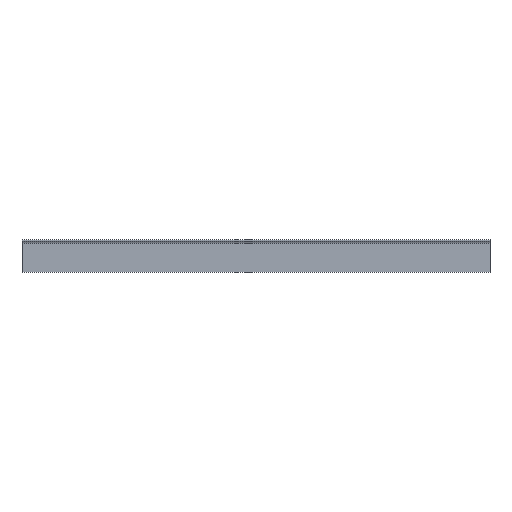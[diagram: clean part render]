
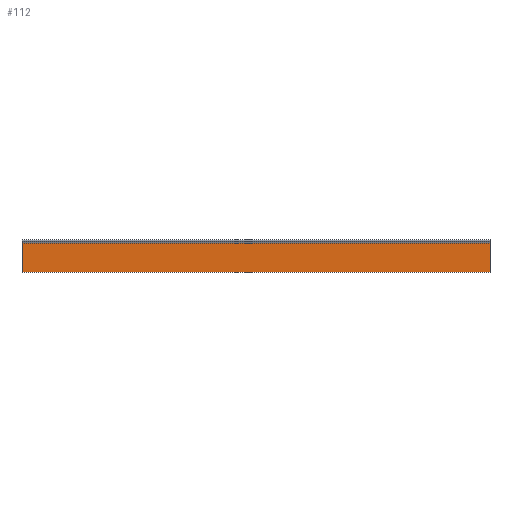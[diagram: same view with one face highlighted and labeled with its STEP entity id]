
A CAD part, front view. The second image highlights one B-rep face of the part: STEP entity #112.
In plain terms, the highlighted planar face has unit normal (0, -1, 0).
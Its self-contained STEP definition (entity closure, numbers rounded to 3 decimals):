
#7 = AXIS2_PLACEMENT_3D ( 'NONE', #86, #222, #391 ) ;
#14 = CARTESIAN_POINT ( 'NONE',  ( -265.5, 29., 0. ) ) ;
#17 = CARTESIAN_POINT ( 'NONE',  ( 265.5, 29., -37. ) ) ;
#22 = LINE ( 'NONE', #17, #154 ) ;
#28 = EDGE_CURVE ( 'NONE', #37, #78, #255, .T. ) ;
#30 = VECTOR ( 'NONE', #421, 1000. ) ;
#31 = EDGE_LOOP ( 'NONE', ( #201, #179, #119, #47 ) ) ;
#37 = VERTEX_POINT ( 'NONE', #127 ) ;
#47 = ORIENTED_EDGE ( 'NONE', *, *, #28, .T. ) ;
#55 = CARTESIAN_POINT ( 'NONE',  ( 265.5, 29., -4. ) ) ;
#78 = VERTEX_POINT ( 'NONE', #159 ) ;
#86 = CARTESIAN_POINT ( 'NONE',  ( 265.5, 29., 0. ) ) ;
#100 = DIRECTION ( 'NONE',  ( 0., 0., -1. ) ) ;
#112 = ADVANCED_FACE ( 'NONE', ( #267 ), #389, .F. ) ;
#119 = ORIENTED_EDGE ( 'NONE', *, *, #180, .F. ) ;
#127 = CARTESIAN_POINT ( 'NONE',  ( 265.5, 29., -4. ) ) ;
#154 = VECTOR ( 'NONE', #265, 1000. ) ;
#159 = CARTESIAN_POINT ( 'NONE',  ( -265.5, 29., -4. ) ) ;
#179 = ORIENTED_EDGE ( 'NONE', *, *, #371, .F. ) ;
#180 = EDGE_CURVE ( 'NONE', #37, #310, #362, .T. ) ;
#201 = ORIENTED_EDGE ( 'NONE', *, *, #353, .T. ) ;
#222 = DIRECTION ( 'NONE',  ( 0., 1., 0. ) ) ;
#255 = LINE ( 'NONE', #55, #30 ) ;
#263 = CARTESIAN_POINT ( 'NONE',  ( 265.5, 29., -37. ) ) ;
#265 = DIRECTION ( 'NONE',  ( -1., 0., 0. ) ) ;
#267 = FACE_OUTER_BOUND ( 'NONE', #31, .T. ) ;
#295 = DIRECTION ( 'NONE',  ( 0., 0., -1. ) ) ;
#310 = VERTEX_POINT ( 'NONE', #263 ) ;
#319 = LINE ( 'NONE', #14, #336 ) ;
#329 = VERTEX_POINT ( 'NONE', #413 ) ;
#336 = VECTOR ( 'NONE', #295, 1000. ) ;
#353 = EDGE_CURVE ( 'NONE', #78, #329, #319, .T. ) ;
#362 = LINE ( 'NONE', #423, #401 ) ;
#371 = EDGE_CURVE ( 'NONE', #310, #329, #22, .T. ) ;
#389 = PLANE ( 'NONE',  #7 ) ;
#391 = DIRECTION ( 'NONE',  ( 0., 0., 1. ) ) ;
#401 = VECTOR ( 'NONE', #100, 1000. ) ;
#413 = CARTESIAN_POINT ( 'NONE',  ( -265.5, 29., -37. ) ) ;
#421 = DIRECTION ( 'NONE',  ( -1., 0., 0. ) ) ;
#423 = CARTESIAN_POINT ( 'NONE',  ( 265.5, 29., 0. ) ) ;
